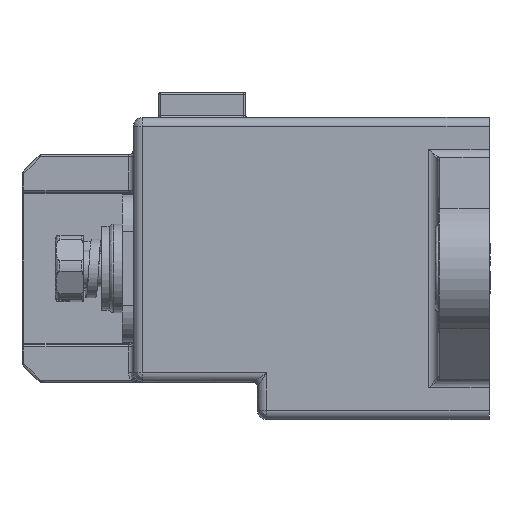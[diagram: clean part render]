
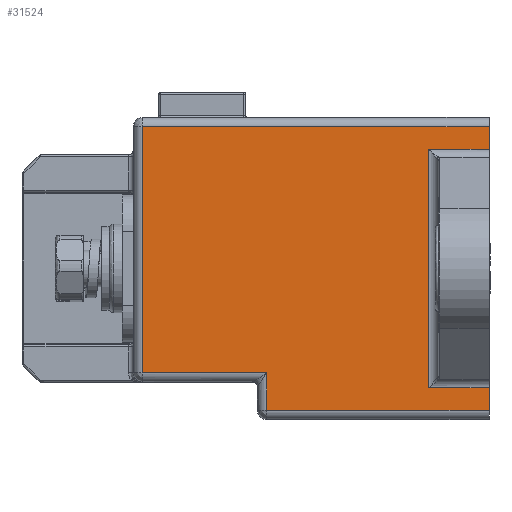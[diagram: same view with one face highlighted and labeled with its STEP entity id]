
A CAD part, left-side view. The second image highlights one B-rep face of the part: STEP entity #31524.
In plain terms, the highlighted planar face has unit normal (-1, 0, 0).
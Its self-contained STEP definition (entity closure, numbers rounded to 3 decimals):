
#131 = ORIENTED_EDGE ( 'NONE', *, *, #16324, .F. ) ;
#132 = ORIENTED_EDGE ( 'NONE', *, *, #16169, .T. ) ;
#133 = ORIENTED_EDGE ( 'NONE', *, *, #15720, .F. ) ;
#134 = ORIENTED_EDGE ( 'NONE', *, *, #15687, .F. ) ;
#135 = ORIENTED_EDGE ( 'NONE', *, *, #15694, .F. ) ;
#136 = ORIENTED_EDGE ( 'NONE', *, *, #15958, .T. ) ;
#137 = ORIENTED_EDGE ( 'NONE', *, *, #15857, .F. ) ;
#138 = ORIENTED_EDGE ( 'NONE', *, *, #15837, .F. ) ;
#139 = ORIENTED_EDGE ( 'NONE', *, *, #15805, .F. ) ;
#140 = ORIENTED_EDGE ( 'NONE', *, *, #15763, .F. ) ;
#2979 = VERTEX_POINT ( 'NONE', #7436 ) ;
#3057 = VERTEX_POINT ( 'NONE', #7541 ) ;
#3087 = VERTEX_POINT ( 'NONE', #11260 ) ;
#3168 = VERTEX_POINT ( 'NONE', #11341 ) ;
#3221 = VERTEX_POINT ( 'NONE', #11394 ) ;
#3281 = VERTEX_POINT ( 'NONE', #11454 ) ;
#3286 = VERTEX_POINT ( 'NONE', #11459 ) ;
#3328 = VERTEX_POINT ( 'NONE', #11501 ) ;
#3348 = VERTEX_POINT ( 'NONE', #11521 ) ;
#3370 = VERTEX_POINT ( 'NONE', #11543 ) ;
#5198 = VECTOR ( 'NONE', #40595, 1000. ) ;
#7436 = CARTESIAN_POINT ( 'NONE',  ( -22.4, 0., 15.3 ) ) ;
#7541 = CARTESIAN_POINT ( 'NONE',  ( -22.4, 0., 12.89 ) ) ;
#8050 = LINE ( 'NONE', #8051, #35790 ) ;
#8051 = CARTESIAN_POINT ( 'NONE',  ( -22.4, 0., -16.3 ) ) ;
#8052 = DIRECTION ( 'NONE',  ( 0., 0., 1. ) ) ;
#8498 = LINE ( 'NONE', #8500, #17751 ) ;
#8500 = CARTESIAN_POINT ( 'NONE',  ( -22.4, 38.4, -12.89 ) ) ;
#8501 = DIRECTION ( 'NONE',  ( 0., -1., 0. ) ) ;
#8644 = LINE ( 'NONE', #8669, #17678 ) ;
#8669 = CARTESIAN_POINT ( 'NONE',  ( -22.4, 24., 16.3 ) ) ;
#8674 = DIRECTION ( 'NONE',  ( 0., 0., 1. ) ) ;
#8935 = LINE ( 'NONE', #8939, #17606 ) ;
#8939 = CARTESIAN_POINT ( 'NONE',  ( -22.4, 38.4, -11.25 ) ) ;
#8941 = DIRECTION ( 'NONE',  ( 0., 1., 0. ) ) ;
#9093 = LINE ( 'NONE', #9096, #17531 ) ;
#9096 = CARTESIAN_POINT ( 'NONE',  ( -22.4, 37.4, 16.3 ) ) ;
#9097 = DIRECTION ( 'NONE',  ( 0., 0., 1. ) ) ;
#9195 = LINE ( 'NONE', #9198, #17490 ) ;
#9198 = CARTESIAN_POINT ( 'NONE',  ( -22.4, 38.4, 15.3 ) ) ;
#9199 = DIRECTION ( 'NONE',  ( 0., -1., 0. ) ) ;
#11260 = CARTESIAN_POINT ( 'NONE',  ( -22.4, 37.4, -11.25 ) ) ;
#11341 = CARTESIAN_POINT ( 'NONE',  ( -22.4, 24., -11.25 ) ) ;
#11394 = CARTESIAN_POINT ( 'NONE',  ( -22.4, 0., -12.89 ) ) ;
#11454 = CARTESIAN_POINT ( 'NONE',  ( -22.4, 0., -15.3 ) ) ;
#11459 = CARTESIAN_POINT ( 'NONE',  ( -22.4, 24., -15.3 ) ) ;
#11501 = CARTESIAN_POINT ( 'NONE',  ( -22.4, 6.5, -12.89 ) ) ;
#11521 = CARTESIAN_POINT ( 'NONE',  ( -22.4, 37.4, 15.3 ) ) ;
#11543 = CARTESIAN_POINT ( 'NONE',  ( -22.4, 6.5, 12.89 ) ) ;
#12525 = LINE ( 'NONE', #12573, #17808 ) ;
#12528 = LINE ( 'NONE', #12542, #17810 ) ;
#12542 = CARTESIAN_POINT ( 'NONE',  ( -22.4, 6.5, 16.3 ) ) ;
#12545 = DIRECTION ( 'NONE',  ( 0., 0., -1. ) ) ;
#12573 = CARTESIAN_POINT ( 'NONE',  ( -22.4, 38.4, 12.89 ) ) ;
#12591 = DIRECTION ( 'NONE',  ( 0., 1., 0. ) ) ;
#15687 = EDGE_CURVE ( 'NONE', #3370, #3328, #12528, .T. ) ;
#15694 = EDGE_CURVE ( 'NONE', #3057, #3370, #12525, .T. ) ;
#15720 = EDGE_CURVE ( 'NONE', #3328, #3221, #8498, .T. ) ;
#15763 = EDGE_CURVE ( 'NONE', #3286, #3168, #8644, .T. ) ;
#15805 = EDGE_CURVE ( 'NONE', #3168, #3087, #8935, .T. ) ;
#15837 = EDGE_CURVE ( 'NONE', #3087, #3348, #9093, .T. ) ;
#15857 = EDGE_CURVE ( 'NONE', #3348, #2979, #9195, .T. ) ;
#15958 = EDGE_CURVE ( 'NONE', #3057, #2979, #8050, .T. ) ;
#16169 = EDGE_CURVE ( 'NONE', #3281, #3221, #42193, .T. ) ;
#16324 = EDGE_CURVE ( 'NONE', #3281, #3286, #40593, .T. ) ;
#17490 = VECTOR ( 'NONE', #9199, 1000. ) ;
#17531 = VECTOR ( 'NONE', #9097, 1000. ) ;
#17606 = VECTOR ( 'NONE', #8941, 1000. ) ;
#17678 = VECTOR ( 'NONE', #8674, 1000. ) ;
#17751 = VECTOR ( 'NONE', #8501, 1000. ) ;
#17808 = VECTOR ( 'NONE', #12591, 1000. ) ;
#17810 = VECTOR ( 'NONE', #12545, 1000. ) ;
#18224 = VECTOR ( 'NONE', #42200, 1000. ) ;
#18723 = PLANE ( 'NONE',  #21086 ) ;
#18752 = FACE_OUTER_BOUND ( 'NONE', #27509, .T. ) ;
#18777 = CARTESIAN_POINT ( 'NONE',  ( -22.4, 38.4, 16.3 ) ) ;
#18779 = DIRECTION ( 'NONE',  ( 1., 0., 0. ) ) ;
#18780 = DIRECTION ( 'NONE',  ( 0., 0., -1. ) ) ;
#21086 = AXIS2_PLACEMENT_3D ( 'NONE', #18777, #18779, #18780 ) ;
#27509 = EDGE_LOOP ( 'NONE', ( #131, #132, #133, #134, #135, #136, #137, #138, #139, #140 ) ) ;
#31524 = ADVANCED_FACE ( 'NONE', ( #18752 ), #18723, .F. ) ;
#35790 = VECTOR ( 'NONE', #8052, 1000. ) ;
#40593 = LINE ( 'NONE', #40594, #5198 ) ;
#40594 = CARTESIAN_POINT ( 'NONE',  ( -22.4, 38.4, -15.3 ) ) ;
#40595 = DIRECTION ( 'NONE',  ( 0., 1., 0. ) ) ;
#42193 = LINE ( 'NONE', #42199, #18224 ) ;
#42199 = CARTESIAN_POINT ( 'NONE',  ( -22.4, 0., -16.3 ) ) ;
#42200 = DIRECTION ( 'NONE',  ( 0., 0., 1. ) ) ;
